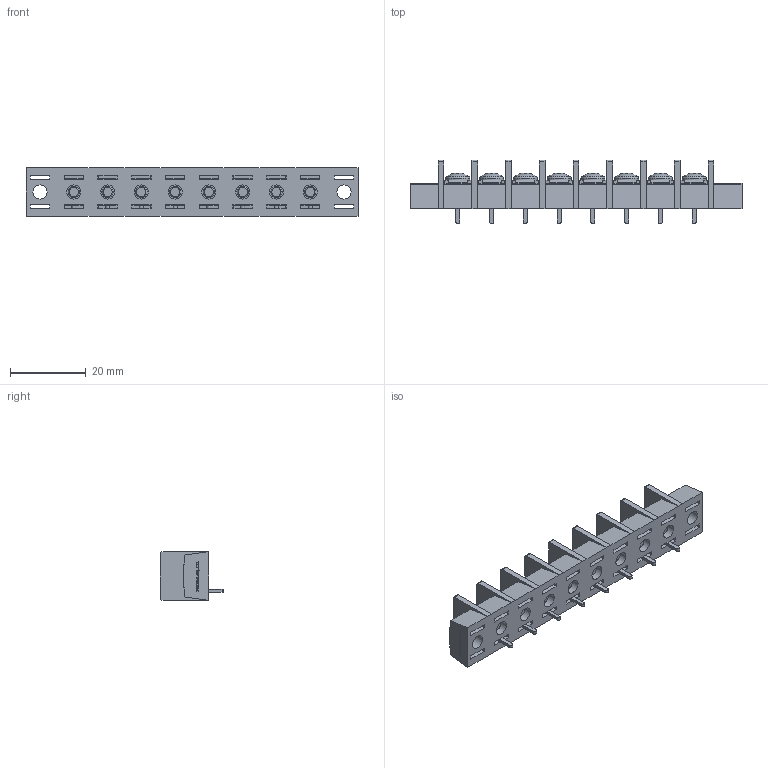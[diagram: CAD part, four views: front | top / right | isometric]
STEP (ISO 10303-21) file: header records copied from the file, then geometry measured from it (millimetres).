
FILE_DESCRIPTION(/* description */ ('Alibre Inc.'),/* implementation_level */ '2;1');
FILE_NAME(/* name */ 'export0',/* time_stamp */ '2015-10-20T08:24:29+09:00',/* author */ (''),/* organization */ (''),/* preprocessor_version */ 'ST-DEVELOPER v14',/* originating_system */ 'Alibre',/* authorisation */ '');
FILE_SCHEMA (('CONFIG_CONTROL_DESIGN'));
Length unit declared in the file: centimetre
Products named in the file (1): ID_1
Bounding box: 87.41 x 16.8 x 12.8 mm (x, y, z)
Volume: 7608.5 mm3; surface area: 9410.7 mm2
Topology: 1 solids, 137 shells, 2660 faces, 6838 edges, 4526 vertices
Faces by surface type: plane 1990, bspline 520, cylinder 86, cone 40, torus 16, sphere 8
Full cylindrical faces by diameter (mm): 3 x16, 3.7 x10, 4.6 x10, 6.3 x8
Entity records: 77003 total; most frequent: CARTESIAN_POINT 18617, ORIENTED_EDGE 13488, DIRECTION 8072, EDGE_CURVE 6744, VECTOR 5204, LINE 5204, VERTEX_POINT 4500, EDGE_LOOP 2926
